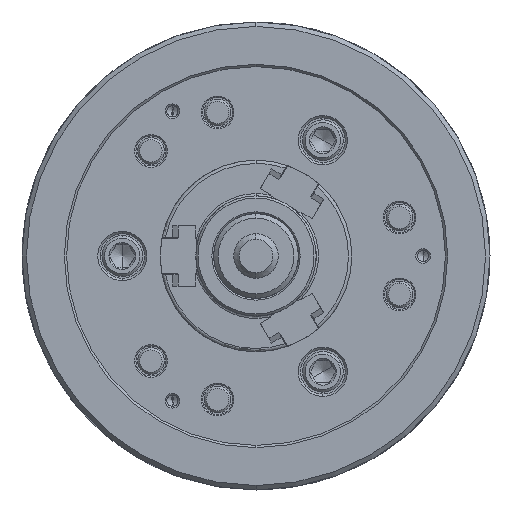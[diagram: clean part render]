
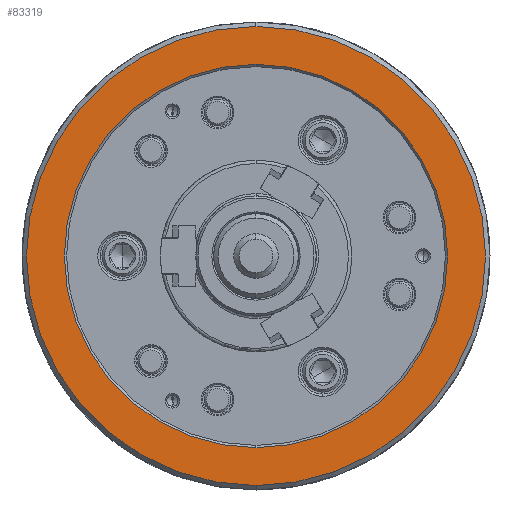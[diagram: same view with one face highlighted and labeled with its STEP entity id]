
A CAD part, left-side view. The second image highlights one B-rep face of the part: STEP entity #83319.
In plain terms, the highlighted planar face has unit normal (-1, 0, 0).
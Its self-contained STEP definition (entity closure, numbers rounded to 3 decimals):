
#6067 = CIRCLE ( 'NONE', #105576, 86. ) ;
#6829 = AXIS2_PLACEMENT_3D ( 'NONE', #29012, #62362, #35088 ) ;
#8589 = EDGE_CURVE ( 'NONE', #104097, #57488, #6067, .T. ) ;
#9554 = EDGE_CURVE ( 'NONE', #96487, #81310, #28879, .T. ) ;
#11711 = DIRECTION ( 'NONE',  ( 0., 0., -1. ) ) ;
#13264 = EDGE_LOOP ( 'NONE', ( #36157, #90087 ) ) ;
#14921 = AXIS2_PLACEMENT_3D ( 'NONE', #69135, #103005, #11711 ) ;
#17311 = CIRCLE ( 'NONE', #6829, 86. ) ;
#25671 = ORIENTED_EDGE ( 'NONE', *, *, #81589, .T. ) ;
#25859 = DIRECTION ( 'NONE',  ( 1., 0., 0. ) ) ;
#27178 = ORIENTED_EDGE ( 'NONE', *, *, #8589, .T. ) ;
#27652 = EDGE_LOOP ( 'NONE', ( #27178, #25671 ) ) ;
#28879 = CIRCLE ( 'NONE', #14921, 103. ) ;
#29012 = CARTESIAN_POINT ( 'NONE',  ( -85., 0., 0. ) ) ;
#35088 = DIRECTION ( 'NONE',  ( 0., 0., -1. ) ) ;
#36157 = ORIENTED_EDGE ( 'NONE', *, *, #79125, .F. ) ;
#41022 = CARTESIAN_POINT ( 'NONE',  ( -85., 0., 86. ) ) ;
#41454 = AXIS2_PLACEMENT_3D ( 'NONE', #54679, #80348, #107627 ) ;
#43904 = FACE_BOUND ( 'NONE', #27652, .T. ) ;
#51580 = CARTESIAN_POINT ( 'NONE',  ( -85., -103., 0. ) ) ;
#52646 = PLANE ( 'NONE',  #81866 ) ;
#54679 = CARTESIAN_POINT ( 'NONE',  ( -85., 0., 0. ) ) ;
#57488 = VERTEX_POINT ( 'NONE', #108210 ) ;
#62362 = DIRECTION ( 'NONE',  ( 1., 0., 0. ) ) ;
#69135 = CARTESIAN_POINT ( 'NONE',  ( -85., 0., 0. ) ) ;
#79125 = EDGE_CURVE ( 'NONE', #81310, #96487, #106006, .T. ) ;
#80348 = DIRECTION ( 'NONE',  ( 1., 0., 0. ) ) ;
#81310 = VERTEX_POINT ( 'NONE', #88197 ) ;
#81589 = EDGE_CURVE ( 'NONE', #57488, #104097, #17311, .T. ) ;
#81866 = AXIS2_PLACEMENT_3D ( 'NONE', #51580, #25859, #100757 ) ;
#83319 = ADVANCED_FACE ( 'NONE', ( #92551, #43904 ), #52646, .F. ) ;
#88197 = CARTESIAN_POINT ( 'NONE',  ( -85., 0., -103. ) ) ;
#90087 = ORIENTED_EDGE ( 'NONE', *, *, #9554, .F. ) ;
#92551 = FACE_OUTER_BOUND ( 'NONE', #13264, .T. ) ;
#96487 = VERTEX_POINT ( 'NONE', #104204 ) ;
#97327 = CARTESIAN_POINT ( 'NONE',  ( -85., 0., 0. ) ) ;
#99493 = DIRECTION ( 'NONE',  ( 1., 0., 0. ) ) ;
#100757 = DIRECTION ( 'NONE',  ( 0., 0., -1. ) ) ;
#101119 = DIRECTION ( 'NONE',  ( 0., 0., -1. ) ) ;
#103005 = DIRECTION ( 'NONE',  ( 1., 0., 0. ) ) ;
#104097 = VERTEX_POINT ( 'NONE', #41022 ) ;
#104204 = CARTESIAN_POINT ( 'NONE',  ( -85., 0., 103. ) ) ;
#105576 = AXIS2_PLACEMENT_3D ( 'NONE', #97327, #99493, #101119 ) ;
#106006 = CIRCLE ( 'NONE', #41454, 103. ) ;
#107627 = DIRECTION ( 'NONE',  ( 0., 0., -1. ) ) ;
#108210 = CARTESIAN_POINT ( 'NONE',  ( -85., 0., -86. ) ) ;
